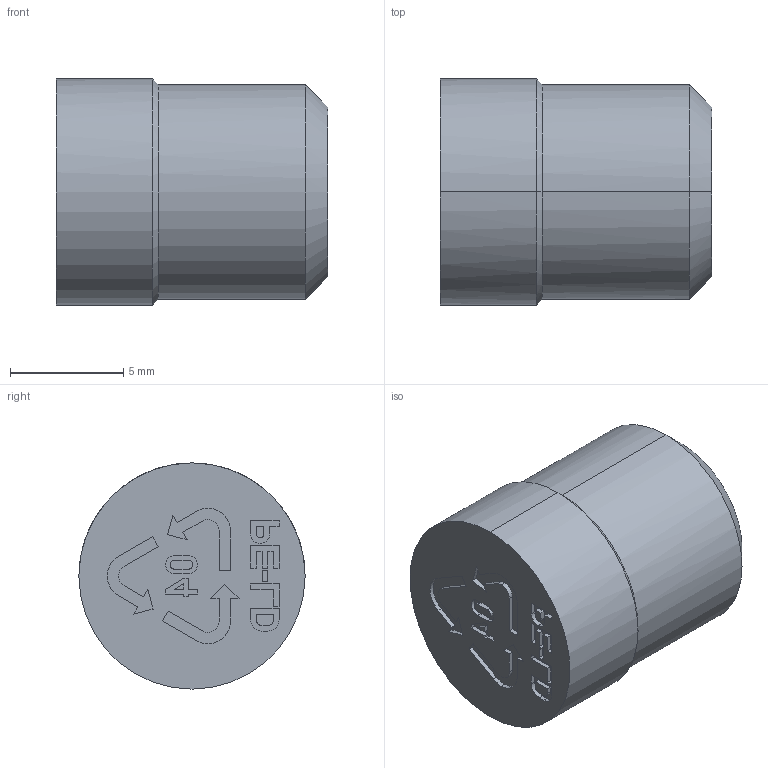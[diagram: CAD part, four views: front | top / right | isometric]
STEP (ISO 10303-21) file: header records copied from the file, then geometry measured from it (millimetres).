
FILE_DESCRIPTION(('CATIA V5 STEP Exchange'),'2;1');
FILE_NAME('C:\Users\Utente\Desktop\IO LAVORO\3D X SITO CF\X SITO\PLASTICA\CFMR\MSO410.stp','2021-03-26T13:40:02+00:00',('none'),('none'),'CATIA Version 5 Release 20 GA (IN-10)','CATIA V5 STEP AP203','none');
FILE_SCHEMA(('CONFIG_CONTROL_DESIGN'));
Length unit declared in the file: millimetre
Products named in the file (1): MSO410
Bounding box: 12 x 10 x 10 mm (x, y, z)
Volume: 810.8 mm3; surface area: 578.6 mm2
Topology: 1 solids, 1 shells, 135 faces, 363 edges, 243 vertices
Faces by surface type: plane 99, cylinder 28, cone 8
Entity records: 4250 total; most frequent: CARTESIAN_POINT 847, ORIENTED_EDGE 722, DIRECTION 616, EDGE_CURVE 361, VECTOR 285, LINE 285, VERTEX_POINT 243, AXIS2_PLACEMENT_3D 197
